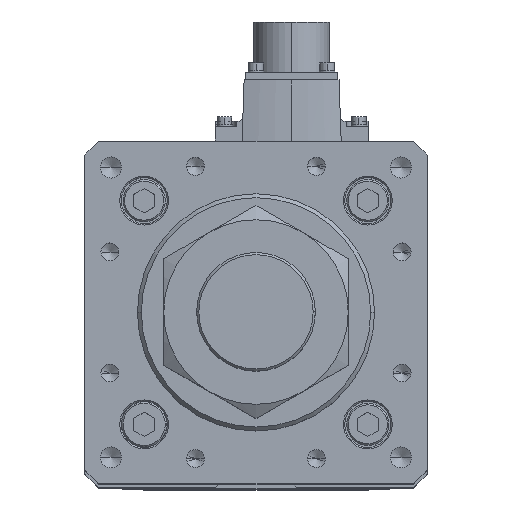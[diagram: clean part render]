
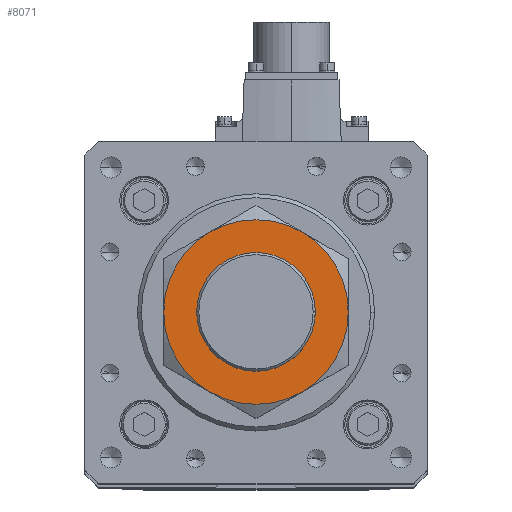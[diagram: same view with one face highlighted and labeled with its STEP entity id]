
A CAD part, top view. The second image highlights one B-rep face of the part: STEP entity #8071.
In plain terms, the highlighted planar face has unit normal (0, 0, 1).
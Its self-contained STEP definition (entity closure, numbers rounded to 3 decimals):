
#230 = DIRECTION ( 'NONE',  ( 1., 0., 0. ) ) ;
#749 = ORIENTED_EDGE ( 'NONE', *, *, #12340, .F. ) ;
#766 = CIRCLE ( 'NONE', #16582, 22.5 ) ;
#786 = AXIS2_PLACEMENT_3D ( 'NONE', #32697, #11966, #230 ) ;
#1284 = ORIENTED_EDGE ( 'NONE', *, *, #11389, .F. ) ;
#1478 = CARTESIAN_POINT ( 'NONE',  ( 0., 0., 27. ) ) ;
#1552 = EDGE_CURVE ( 'NONE', #7062, #31085, #29687, .T. ) ;
#1637 = FACE_OUTER_BOUND ( 'NONE', #26527, .T. ) ;
#3823 = EDGE_LOOP ( 'NONE', ( #8318, #8114 ) ) ;
#3826 = DIRECTION ( 'NONE',  ( -1., 0., 0. ) ) ;
#4102 = DIRECTION ( 'NONE',  ( -1., 0., 0. ) ) ;
#4591 = CARTESIAN_POINT ( 'NONE',  ( -35., 0., 27. ) ) ;
#5191 = EDGE_CURVE ( 'NONE', #29519, #31371, #10740, .T. ) ;
#6686 = CIRCLE ( 'NONE', #34574, 35. ) ;
#7062 = VERTEX_POINT ( 'NONE', #22611 ) ;
#7160 = CARTESIAN_POINT ( 'NONE',  ( -17.5, -30.311, 27. ) ) ;
#7256 = DIRECTION ( 'NONE',  ( -1., 0., 0. ) ) ;
#7330 = CARTESIAN_POINT ( 'NONE',  ( 0., 0., 27. ) ) ;
#7367 = CARTESIAN_POINT ( 'NONE',  ( 0., 0., 27. ) ) ;
#8071 = ADVANCED_FACE ( 'NONE', ( #1637, #15962 ), #36720, .T. ) ;
#8114 = ORIENTED_EDGE ( 'NONE', *, *, #5191, .F. ) ;
#8153 = CARTESIAN_POINT ( 'NONE',  ( 17.5, -30.311, 27. ) ) ;
#8318 = ORIENTED_EDGE ( 'NONE', *, *, #20392, .F. ) ;
#8345 = EDGE_CURVE ( 'NONE', #18412, #7062, #34414, .T. ) ;
#9661 = CARTESIAN_POINT ( 'NONE',  ( -22.5, 0., 27. ) ) ;
#10128 = CARTESIAN_POINT ( 'NONE',  ( 0., 0., 27. ) ) ;
#10740 = CIRCLE ( 'NONE', #786, 22.5 ) ;
#11208 = AXIS2_PLACEMENT_3D ( 'NONE', #10128, #24841, #33717 ) ;
#11389 = EDGE_CURVE ( 'NONE', #11618, #18412, #6686, .T. ) ;
#11618 = VERTEX_POINT ( 'NONE', #7160 ) ;
#11966 = DIRECTION ( 'NONE',  ( 0., 0., 1. ) ) ;
#12340 = EDGE_CURVE ( 'NONE', #15899, #11618, #16818, .T. ) ;
#12892 = DIRECTION ( 'NONE',  ( 0., 0., -1. ) ) ;
#13193 = DIRECTION ( 'NONE',  ( 1., 0., 0. ) ) ;
#13359 = ORIENTED_EDGE ( 'NONE', *, *, #1552, .F. ) ;
#13483 = DIRECTION ( 'NONE',  ( 0., 0., -1. ) ) ;
#13831 = CIRCLE ( 'NONE', #22925, 35. ) ;
#13862 = AXIS2_PLACEMENT_3D ( 'NONE', #1478, #15934, #25053 ) ;
#15738 = CARTESIAN_POINT ( 'NONE',  ( 0., 0., 27. ) ) ;
#15899 = VERTEX_POINT ( 'NONE', #8153 ) ;
#15934 = DIRECTION ( 'NONE',  ( 0., 0., -1. ) ) ;
#15962 = FACE_BOUND ( 'NONE', #3823, .T. ) ;
#16005 = AXIS2_PLACEMENT_3D ( 'NONE', #27182, #21543, #4102 ) ;
#16582 = AXIS2_PLACEMENT_3D ( 'NONE', #7330, #30806, #13193 ) ;
#16818 = CIRCLE ( 'NONE', #13862, 35. ) ;
#17126 = ORIENTED_EDGE ( 'NONE', *, *, #35828, .F. ) ;
#17527 = CARTESIAN_POINT ( 'NONE',  ( 0., 0., 27. ) ) ;
#18412 = VERTEX_POINT ( 'NONE', #4591 ) ;
#20319 = CARTESIAN_POINT ( 'NONE',  ( 35., 0., 27. ) ) ;
#20392 = EDGE_CURVE ( 'NONE', #31371, #29519, #766, .T. ) ;
#21525 = DIRECTION ( 'NONE',  ( 0., 0., -1. ) ) ;
#21543 = DIRECTION ( 'NONE',  ( 0., 0., -1. ) ) ;
#21609 = AXIS2_PLACEMENT_3D ( 'NONE', #15738, #21525, #3826 ) ;
#22382 = ORIENTED_EDGE ( 'NONE', *, *, #8345, .F. ) ;
#22611 = CARTESIAN_POINT ( 'NONE',  ( -17.5, 30.311, 27. ) ) ;
#22925 = AXIS2_PLACEMENT_3D ( 'NONE', #32093, #12892, #26777 ) ;
#24841 = DIRECTION ( 'NONE',  ( 0., 0., 1. ) ) ;
#25053 = DIRECTION ( 'NONE',  ( -1., 0., 0. ) ) ;
#25213 = CARTESIAN_POINT ( 'NONE',  ( 17.5, 30.311, 27. ) ) ;
#26527 = EDGE_LOOP ( 'NONE', ( #17126, #31657, #13359, #22382, #1284, #749 ) ) ;
#26777 = DIRECTION ( 'NONE',  ( -1., 0., 0. ) ) ;
#27182 = CARTESIAN_POINT ( 'NONE',  ( 0., 0., 27. ) ) ;
#28968 = DIRECTION ( 'NONE',  ( 0., 0., -1. ) ) ;
#29519 = VERTEX_POINT ( 'NONE', #29948 ) ;
#29687 = CIRCLE ( 'NONE', #16005, 35. ) ;
#29948 = CARTESIAN_POINT ( 'NONE',  ( 22.5, 0., 27. ) ) ;
#30806 = DIRECTION ( 'NONE',  ( 0., 0., 1. ) ) ;
#31085 = VERTEX_POINT ( 'NONE', #25213 ) ;
#31371 = VERTEX_POINT ( 'NONE', #9661 ) ;
#31657 = ORIENTED_EDGE ( 'NONE', *, *, #38278, .F. ) ;
#32093 = CARTESIAN_POINT ( 'NONE',  ( 0., 0., 27. ) ) ;
#32421 = VERTEX_POINT ( 'NONE', #20319 ) ;
#32663 = CIRCLE ( 'NONE', #35435, 35. ) ;
#32697 = CARTESIAN_POINT ( 'NONE',  ( 0., 0., 27. ) ) ;
#33717 = DIRECTION ( 'NONE',  ( 1., 0., 0. ) ) ;
#34414 = CIRCLE ( 'NONE', #21609, 35. ) ;
#34574 = AXIS2_PLACEMENT_3D ( 'NONE', #17527, #28968, #37657 ) ;
#35435 = AXIS2_PLACEMENT_3D ( 'NONE', #7367, #13483, #7256 ) ;
#35828 = EDGE_CURVE ( 'NONE', #32421, #15899, #32663, .T. ) ;
#36720 = PLANE ( 'NONE',  #11208 ) ;
#37657 = DIRECTION ( 'NONE',  ( -1., 0., 0. ) ) ;
#38278 = EDGE_CURVE ( 'NONE', #31085, #32421, #13831, .T. ) ;
